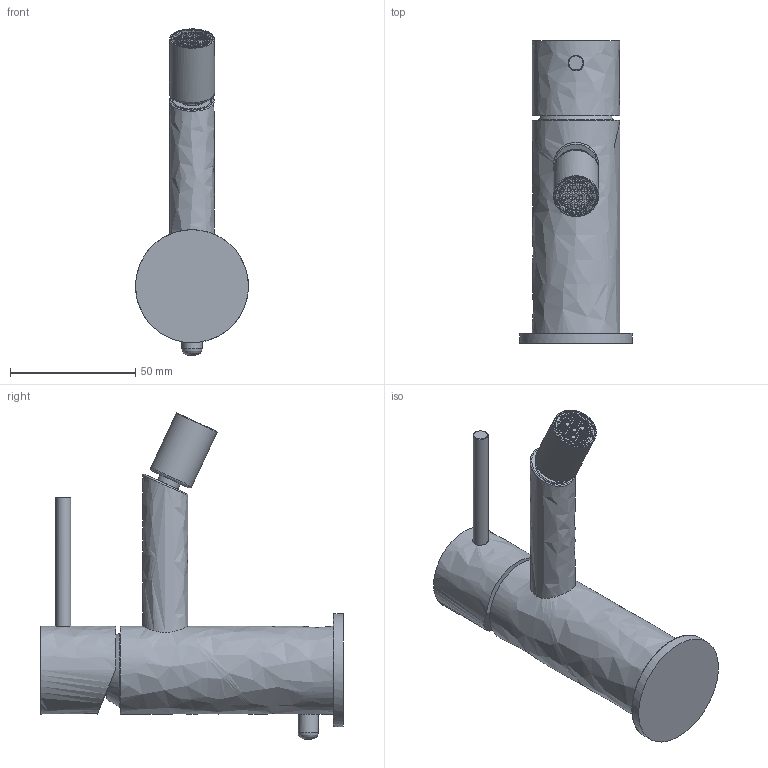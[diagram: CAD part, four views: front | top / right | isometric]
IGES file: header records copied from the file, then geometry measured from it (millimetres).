
Global section: file name: PR52BA101; native system: Autodesk Inventor 2017; preprocessor: unknown; author: PIZZERA; date: 20210408.132548; units: millimetre
Bounding box: 44.98 x 120.7 x 130.11 mm (x, y, z)
Volume: 139609.4 mm3; surface area: 24969 mm2
Topology: 2 solids, 2 shells, 660 faces, 1705 edges, 1118 vertices
Faces by surface type: bspline 660
